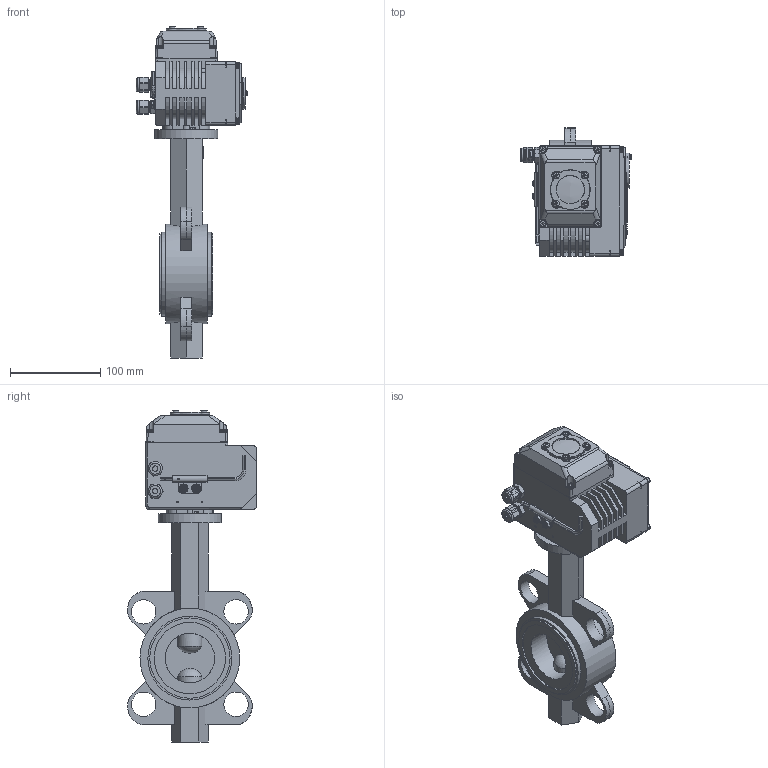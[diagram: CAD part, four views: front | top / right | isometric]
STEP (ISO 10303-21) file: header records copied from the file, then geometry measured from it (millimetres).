
FILE_DESCRIPTION(('STEP AP203'), '1');
FILE_NAME('3D_200_201-065-16-Ï.31', '', ('UNSPECIFIED'), ('UNSPECIFIED'), 'C3D Converter', 'C3D Toolkit', '');
FILE_SCHEMA(('CONFIG_CONTROL_DESIGN'));
Length unit declared in the file: millimetre
Bounding box: 123.37 x 142.86 x 367.95 mm (x, y, z)
Volume: 1617007 mm3; surface area: 185462.7 mm2
Topology: 41 solids, 41 shells, 4425 faces, 12824 edges, 8372 vertices
Faces by surface type: plane 2841, cylinder 1023, cone 319, bspline 183, torus 43, sphere 16
Full cylindrical faces by diameter (mm): 2 x2, 3 x8, 3.2 x1, 3.3 x7, 3.5 x9, 4 x44, 4.2 x8, 4.3 x4, 4.5 x8, 4.6 x4, 5 x20, 5.3 x2, 5.5 x2, 5.6 x1, 6 x2, 6.4 x8, 7 x5, 7.5 x2, 7.8 x2, 8 x2, 10 x2, 13.2 x2, 15.2 x2, 18.5 x1, 20 x1, 22 x1, 25 x1, 27.141 x4, 31 x1, 34.2 x1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
Entity records: 266778 total; most frequent: CARTESIAN_POINT 120282, ORIENTED_EDGE 24756, DIRECTION 20347, EDGE_CURVE 12378, VERTEX_POINT 8331, LINE 7495, VECTOR 7495, AXIS2_PLACEMENT_3D 6426
